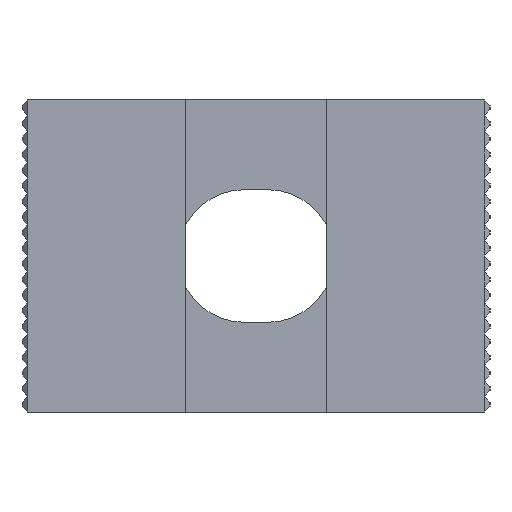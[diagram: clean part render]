
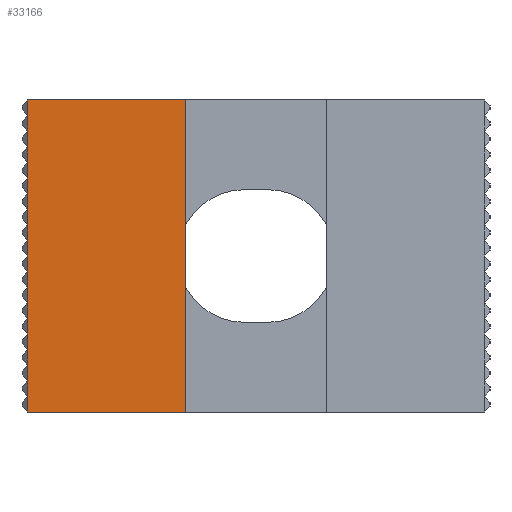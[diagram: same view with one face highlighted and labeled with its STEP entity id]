
A CAD part, front view. The second image highlights one B-rep face of the part: STEP entity #33166.
In plain terms, the highlighted planar face has unit normal (0, -1, 0).
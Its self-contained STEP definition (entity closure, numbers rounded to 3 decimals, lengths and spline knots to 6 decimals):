
#681=DIRECTION('',(-1.,0.,0.));
#682=VECTOR('',#681,0.020169);
#683=CARTESIAN_POINT('',(-0.009081,-0.03,-0.02));
#684=LINE('',#683,#682);
#1305=DIRECTION('',(0.,0.,1.));
#1306=VECTOR('',#1305,0.002);
#1307=CARTESIAN_POINT('',(-0.02925,-0.03,-0.02));
#1308=LINE('',#1307,#1306);
#1309=DIRECTION('',(-1.,0.,0.));
#1310=VECTOR('',#1309,0.020169);
#1311=CARTESIAN_POINT('',(-0.009081,-0.03,0.02));
#1312=LINE('',#1311,#1310);
#1313=DIRECTION('',(0.,0.,1.));
#1314=VECTOR('',#1313,0.04);
#1315=CARTESIAN_POINT('',(-0.009081,-0.03,-0.02));
#1316=LINE('',#1315,#1314);
#1325=DIRECTION('',(0.,0.,1.));
#1326=VECTOR('',#1325,0.002);
#1327=CARTESIAN_POINT('',(-0.02925,-0.03,-0.018));
#1328=LINE('',#1327,#1326);
#1393=DIRECTION('',(0.,0.,1.));
#1394=VECTOR('',#1393,0.002);
#1395=CARTESIAN_POINT('',(-0.02925,-0.03,-0.016));
#1396=LINE('',#1395,#1394);
#1433=DIRECTION('',(0.,0.,1.));
#1434=VECTOR('',#1433,0.002);
#1435=CARTESIAN_POINT('',(-0.02925,-0.03,-0.014));
#1436=LINE('',#1435,#1434);
#1473=DIRECTION('',(0.,0.,1.));
#1474=VECTOR('',#1473,0.002);
#1475=CARTESIAN_POINT('',(-0.02925,-0.03,-0.012));
#1476=LINE('',#1475,#1474);
#1513=DIRECTION('',(0.,0.,1.));
#1514=VECTOR('',#1513,0.002);
#1515=CARTESIAN_POINT('',(-0.02925,-0.03,-0.01));
#1516=LINE('',#1515,#1514);
#1553=DIRECTION('',(0.,0.,1.));
#1554=VECTOR('',#1553,0.002);
#1555=CARTESIAN_POINT('',(-0.02925,-0.03,-0.008));
#1556=LINE('',#1555,#1554);
#1593=DIRECTION('',(0.,0.,1.));
#1594=VECTOR('',#1593,0.002);
#1595=CARTESIAN_POINT('',(-0.02925,-0.03,-0.006));
#1596=LINE('',#1595,#1594);
#1633=DIRECTION('',(0.,0.,1.));
#1634=VECTOR('',#1633,0.002);
#1635=CARTESIAN_POINT('',(-0.02925,-0.03,-0.004));
#1636=LINE('',#1635,#1634);
#1673=DIRECTION('',(0.,0.,1.));
#1674=VECTOR('',#1673,0.002);
#1675=CARTESIAN_POINT('',(-0.02925,-0.03,-0.002));
#1676=LINE('',#1675,#1674);
#1713=DIRECTION('',(0.,0.,1.));
#1714=VECTOR('',#1713,0.002);
#1715=CARTESIAN_POINT('',(-0.02925,-0.03,0.));
#1716=LINE('',#1715,#1714);
#1753=DIRECTION('',(0.,0.,1.));
#1754=VECTOR('',#1753,0.002);
#1755=CARTESIAN_POINT('',(-0.02925,-0.03,0.002));
#1756=LINE('',#1755,#1754);
#1793=DIRECTION('',(0.,0.,1.));
#1794=VECTOR('',#1793,0.002);
#1795=CARTESIAN_POINT('',(-0.02925,-0.03,0.004));
#1796=LINE('',#1795,#1794);
#1833=DIRECTION('',(0.,0.,1.));
#1834=VECTOR('',#1833,0.002);
#1835=CARTESIAN_POINT('',(-0.02925,-0.03,0.006));
#1836=LINE('',#1835,#1834);
#1873=DIRECTION('',(0.,0.,1.));
#1874=VECTOR('',#1873,0.002);
#1875=CARTESIAN_POINT('',(-0.02925,-0.03,0.008));
#1876=LINE('',#1875,#1874);
#1913=DIRECTION('',(0.,0.,1.));
#1914=VECTOR('',#1913,0.002);
#1915=CARTESIAN_POINT('',(-0.02925,-0.03,0.01));
#1916=LINE('',#1915,#1914);
#1953=DIRECTION('',(0.,0.,1.));
#1954=VECTOR('',#1953,0.002);
#1955=CARTESIAN_POINT('',(-0.02925,-0.03,0.012));
#1956=LINE('',#1955,#1954);
#1993=DIRECTION('',(0.,0.,1.));
#1994=VECTOR('',#1993,0.002);
#1995=CARTESIAN_POINT('',(-0.02925,-0.03,0.014));
#1996=LINE('',#1995,#1994);
#2033=DIRECTION('',(0.,0.,1.));
#2034=VECTOR('',#2033,0.002);
#2035=CARTESIAN_POINT('',(-0.02925,-0.03,0.016));
#2036=LINE('',#2035,#2034);
#2077=DIRECTION('',(0.,0.,1.));
#2078=VECTOR('',#2077,0.002);
#2079=CARTESIAN_POINT('',(-0.02925,-0.03,0.018));
#2080=LINE('',#2079,#2078);
#27641=CARTESIAN_POINT('',(-0.009081,-0.03,-0.02));
#27642=CARTESIAN_POINT('',(-0.009081,-0.03,0.02));
#27643=VERTEX_POINT('',#27641);
#27644=VERTEX_POINT('',#27642);
#27695=CARTESIAN_POINT('',(-0.02925,-0.03,0.02));
#27696=VERTEX_POINT('',#27695);
#27723=CARTESIAN_POINT('',(-0.02925,-0.03,-0.02));
#27724=VERTEX_POINT('',#27723);
#27725=CARTESIAN_POINT('',(-0.02925,-0.03,-0.018));
#27726=VERTEX_POINT('',#27725);
#27727=CARTESIAN_POINT('',(-0.02925,-0.03,-0.016));
#27728=VERTEX_POINT('',#27727);
#27729=CARTESIAN_POINT('',(-0.02925,-0.03,-0.014));
#27730=VERTEX_POINT('',#27729);
#27731=CARTESIAN_POINT('',(-0.02925,-0.03,-0.012));
#27732=VERTEX_POINT('',#27731);
#27733=CARTESIAN_POINT('',(-0.02925,-0.03,-0.01));
#27734=VERTEX_POINT('',#27733);
#27735=CARTESIAN_POINT('',(-0.02925,-0.03,-0.008));
#27736=VERTEX_POINT('',#27735);
#27737=CARTESIAN_POINT('',(-0.02925,-0.03,-0.006));
#27738=VERTEX_POINT('',#27737);
#27739=CARTESIAN_POINT('',(-0.02925,-0.03,-0.004));
#27740=VERTEX_POINT('',#27739);
#27741=CARTESIAN_POINT('',(-0.02925,-0.03,-0.002));
#27742=VERTEX_POINT('',#27741);
#27743=CARTESIAN_POINT('',(-0.02925,-0.03,0.));
#27744=VERTEX_POINT('',#27743);
#27745=CARTESIAN_POINT('',(-0.02925,-0.03,0.002));
#27746=VERTEX_POINT('',#27745);
#27747=CARTESIAN_POINT('',(-0.02925,-0.03,0.004));
#27748=VERTEX_POINT('',#27747);
#27749=CARTESIAN_POINT('',(-0.02925,-0.03,0.006));
#27750=VERTEX_POINT('',#27749);
#27751=CARTESIAN_POINT('',(-0.02925,-0.03,0.008));
#27752=VERTEX_POINT('',#27751);
#27753=CARTESIAN_POINT('',(-0.02925,-0.03,0.01));
#27754=VERTEX_POINT('',#27753);
#27755=CARTESIAN_POINT('',(-0.02925,-0.03,0.012));
#27756=VERTEX_POINT('',#27755);
#27757=CARTESIAN_POINT('',(-0.02925,-0.03,0.014));
#27758=VERTEX_POINT('',#27757);
#27759=CARTESIAN_POINT('',(-0.02925,-0.03,0.016));
#27760=VERTEX_POINT('',#27759);
#27761=CARTESIAN_POINT('',(-0.02925,-0.03,0.018));
#27762=VERTEX_POINT('',#27761);
#33116=CARTESIAN_POINT('',(-0.015,-0.03,0.));
#33117=DIRECTION('',(0.,1.,0.));
#33118=DIRECTION('',(1.,0.,0.));
#33119=AXIS2_PLACEMENT_3D('',#33116,#33117,#33118);
#33120=PLANE('',#33119);
#33121=ORIENTED_EDGE('',*,*,#30734,.F.);
#33123=ORIENTED_EDGE('',*,*,#33122,.F.);
#33124=ORIENTED_EDGE('',*,*,#32093,.T.);
#33125=ORIENTED_EDGE('',*,*,#33111,.T.);
#33127=ORIENTED_EDGE('',*,*,#33126,.T.);
#33129=ORIENTED_EDGE('',*,*,#33128,.T.);
#33131=ORIENTED_EDGE('',*,*,#33130,.T.);
#33133=ORIENTED_EDGE('',*,*,#33132,.T.);
#33135=ORIENTED_EDGE('',*,*,#33134,.T.);
#33137=ORIENTED_EDGE('',*,*,#33136,.T.);
#33139=ORIENTED_EDGE('',*,*,#33138,.T.);
#33141=ORIENTED_EDGE('',*,*,#33140,.T.);
#33143=ORIENTED_EDGE('',*,*,#33142,.T.);
#33145=ORIENTED_EDGE('',*,*,#33144,.T.);
#33147=ORIENTED_EDGE('',*,*,#33146,.T.);
#33149=ORIENTED_EDGE('',*,*,#33148,.T.);
#33151=ORIENTED_EDGE('',*,*,#33150,.T.);
#33153=ORIENTED_EDGE('',*,*,#33152,.T.);
#33155=ORIENTED_EDGE('',*,*,#33154,.T.);
#33157=ORIENTED_EDGE('',*,*,#33156,.T.);
#33159=ORIENTED_EDGE('',*,*,#33158,.T.);
#33161=ORIENTED_EDGE('',*,*,#33160,.T.);
#33163=ORIENTED_EDGE('',*,*,#33162,.T.);
#33164=EDGE_LOOP('',(#33121,#33123,#33124,#33125,#33127,#33129,#33131,#33133,
#33135,#33137,#33139,#33141,#33143,#33145,#33147,#33149,#33151,#33153,#33155,
#33157,#33159,#33161,#33163));
#33165=FACE_OUTER_BOUND('',#33164,.F.);
#33166=ADVANCED_FACE('',(#33165),#33120,.F.);
#30734=EDGE_CURVE('',#27644,#27696,#1312,.T.);
#32093=EDGE_CURVE('',#27643,#27724,#684,.T.);
#33111=EDGE_CURVE('',#27724,#27726,#1308,.T.);
#33122=EDGE_CURVE('',#27643,#27644,#1316,.T.);
#33126=EDGE_CURVE('',#27726,#27728,#1328,.T.);
#33128=EDGE_CURVE('',#27728,#27730,#1396,.T.);
#33130=EDGE_CURVE('',#27730,#27732,#1436,.T.);
#33132=EDGE_CURVE('',#27732,#27734,#1476,.T.);
#33134=EDGE_CURVE('',#27734,#27736,#1516,.T.);
#33136=EDGE_CURVE('',#27736,#27738,#1556,.T.);
#33138=EDGE_CURVE('',#27738,#27740,#1596,.T.);
#33140=EDGE_CURVE('',#27740,#27742,#1636,.T.);
#33142=EDGE_CURVE('',#27742,#27744,#1676,.T.);
#33144=EDGE_CURVE('',#27744,#27746,#1716,.T.);
#33146=EDGE_CURVE('',#27746,#27748,#1756,.T.);
#33148=EDGE_CURVE('',#27748,#27750,#1796,.T.);
#33150=EDGE_CURVE('',#27750,#27752,#1836,.T.);
#33152=EDGE_CURVE('',#27752,#27754,#1876,.T.);
#33154=EDGE_CURVE('',#27754,#27756,#1916,.T.);
#33156=EDGE_CURVE('',#27756,#27758,#1956,.T.);
#33158=EDGE_CURVE('',#27758,#27760,#1996,.T.);
#33160=EDGE_CURVE('',#27760,#27762,#2036,.T.);
#33162=EDGE_CURVE('',#27762,#27696,#2080,.T.);
